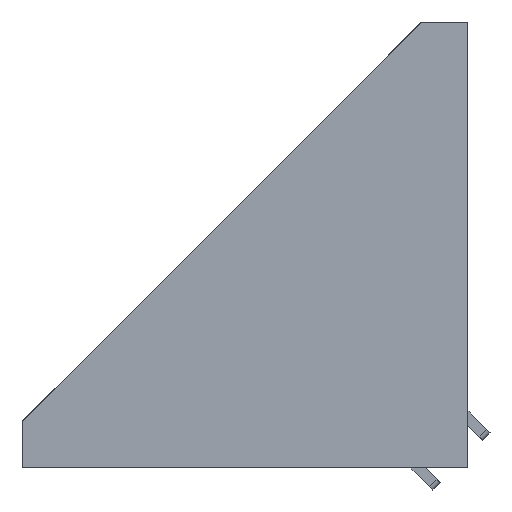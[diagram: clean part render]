
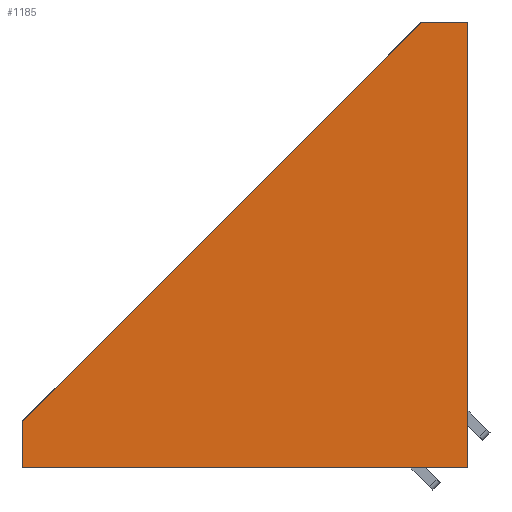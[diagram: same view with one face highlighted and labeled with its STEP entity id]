
A CAD part, left-side view. The second image highlights one B-rep face of the part: STEP entity #1185.
In plain terms, the highlighted planar face has unit normal (-1, 0, 0).
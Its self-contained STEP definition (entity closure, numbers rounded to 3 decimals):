
#2 = CARTESIAN_POINT ( 'NONE',  ( -44., 86., -43. ) ) ;
#70 = AXIS2_PLACEMENT_3D ( 'NONE', #1037, #4612, #2479 ) ;
#308 = VECTOR ( 'NONE', #640, 1000. ) ;
#338 = ORIENTED_EDGE ( 'NONE', *, *, #1262, .F. ) ;
#366 = EDGE_CURVE ( 'NONE', #3035, #4433, #4198, .T. ) ;
#640 = DIRECTION ( 'NONE',  ( 0., -1., 0. ) ) ;
#705 = FACE_OUTER_BOUND ( 'NONE', #3139, .T. ) ;
#976 = CARTESIAN_POINT ( 'NONE',  ( -44., 86., -34. ) ) ;
#1021 = VERTEX_POINT ( 'NONE', #4103 ) ;
#1023 = DIRECTION ( 'NONE',  ( 0., -1., 0. ) ) ;
#1037 = CARTESIAN_POINT ( 'NONE',  ( -44., 0., 0. ) ) ;
#1185 = ADVANCED_FACE ( 'NONE', ( #705 ), #1756, .T. ) ;
#1262 = EDGE_CURVE ( 'NONE', #2151, #4433, #4070, .T. ) ;
#1268 = LINE ( 'NONE', #1372, #3887 ) ;
#1351 = EDGE_CURVE ( 'NONE', #1021, #4534, #3009, .T. ) ;
#1372 = CARTESIAN_POINT ( 'NONE',  ( -44., 9., 43. ) ) ;
#1420 = ORIENTED_EDGE ( 'NONE', *, *, #366, .T. ) ;
#1601 = DIRECTION ( 'NONE',  ( 0., 0.707, -0.707 ) ) ;
#1653 = EDGE_CURVE ( 'NONE', #2151, #1021, #2213, .T. ) ;
#1692 = ORIENTED_EDGE ( 'NONE', *, *, #1351, .T. ) ;
#1696 = EDGE_CURVE ( 'NONE', #3035, #4534, #1268, .T. ) ;
#1756 = PLANE ( 'NONE',  #70 ) ;
#1830 = CARTESIAN_POINT ( 'NONE',  ( -44., 0., 43. ) ) ;
#1981 = CARTESIAN_POINT ( 'NONE',  ( -44., 9., 43. ) ) ;
#2066 = VECTOR ( 'NONE', #1601, 1000. ) ;
#2094 = CARTESIAN_POINT ( 'NONE',  ( -44., 0., 43. ) ) ;
#2151 = VERTEX_POINT ( 'NONE', #3630 ) ;
#2213 = LINE ( 'NONE', #3146, #308 ) ;
#2479 = DIRECTION ( 'NONE',  ( 0., 0., 1. ) ) ;
#2525 = DIRECTION ( 'NONE',  ( 0., 0., 1. ) ) ;
#3009 = LINE ( 'NONE', #1830, #3730 ) ;
#3035 = VERTEX_POINT ( 'NONE', #1981 ) ;
#3139 = EDGE_LOOP ( 'NONE', ( #3420, #1420, #338, #4259, #1692 ) ) ;
#3146 = CARTESIAN_POINT ( 'NONE',  ( -44., 9., -43. ) ) ;
#3220 = VECTOR ( 'NONE', #2525, 1000. ) ;
#3258 = DIRECTION ( 'NONE',  ( 0., 0., 1. ) ) ;
#3420 = ORIENTED_EDGE ( 'NONE', *, *, #1696, .F. ) ;
#3630 = CARTESIAN_POINT ( 'NONE',  ( -44., 86., -43. ) ) ;
#3730 = VECTOR ( 'NONE', #3258, 1000. ) ;
#3737 = CARTESIAN_POINT ( 'NONE',  ( -44., 86., -34. ) ) ;
#3887 = VECTOR ( 'NONE', #1023, 1000. ) ;
#4070 = LINE ( 'NONE', #2, #3220 ) ;
#4103 = CARTESIAN_POINT ( 'NONE',  ( -44., 0., -43. ) ) ;
#4198 = LINE ( 'NONE', #3737, #2066 ) ;
#4259 = ORIENTED_EDGE ( 'NONE', *, *, #1653, .T. ) ;
#4433 = VERTEX_POINT ( 'NONE', #976 ) ;
#4534 = VERTEX_POINT ( 'NONE', #2094 ) ;
#4612 = DIRECTION ( 'NONE',  ( -1., 0., 0. ) ) ;
